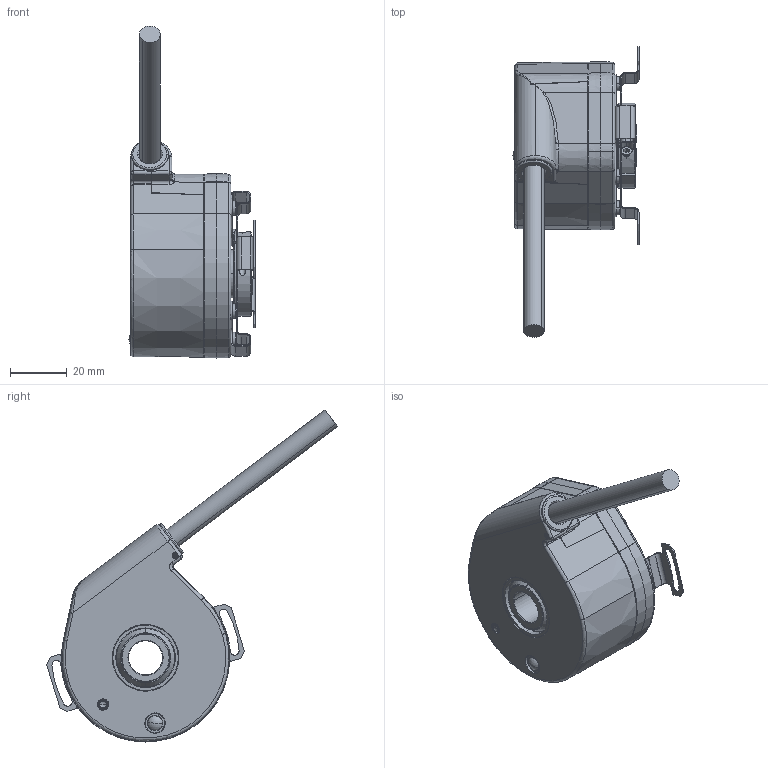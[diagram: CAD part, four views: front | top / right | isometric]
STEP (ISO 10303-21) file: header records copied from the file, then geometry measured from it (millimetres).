
FILE_DESCRIPTION (( 'STEP AP214' ), '1' );
FILE_NAME ('8.F5883M.54XE.XXXX~0.STEP', '2015-12-22T07:36:26', ( 'LauferA' ), ( 'Microsoft' ), 'SwSTEP 2.0', 'SolidWorks 2013', '' );
FILE_SCHEMA (( 'AUTOMOTIVE_DESIGN' ));
Length unit declared in the file: millimetre
Products named in the file (1): 8.F5883M.54XE.XXXX~0
Bounding box: 44.4 x 102.42 x 116.92 mm (x, y, z)
Volume: 86057 mm3; surface area: 64884.1 mm2
Topology: 20 solids, 21 shells, 2173 faces, 5346 edges, 3222 vertices
Faces by surface type: cylinder 670, plane 606, cone 368, torus 273, bspline 202, sphere 54
Entity records: 101878 total; most frequent: CARTESIAN_POINT 28866, ORIENTED_EDGE 10420, DIRECTION 10038, EDGE_CURVE 5210, AXIS2_PLACEMENT_3D 4077, VERTEX_POINT 3168, EDGE_LOOP 2346, UNCERTAINTY_MEASURE_WITH_UNIT 2195
